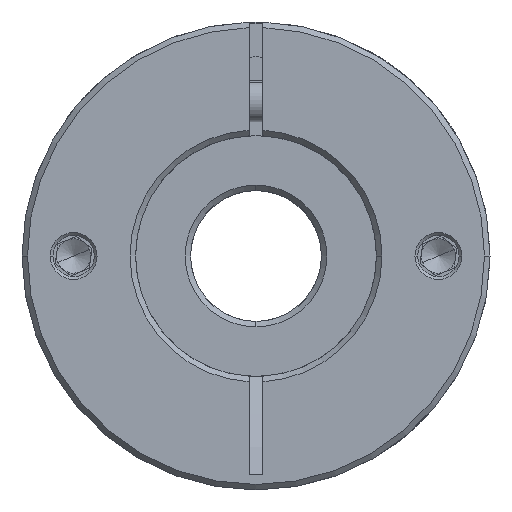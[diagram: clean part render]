
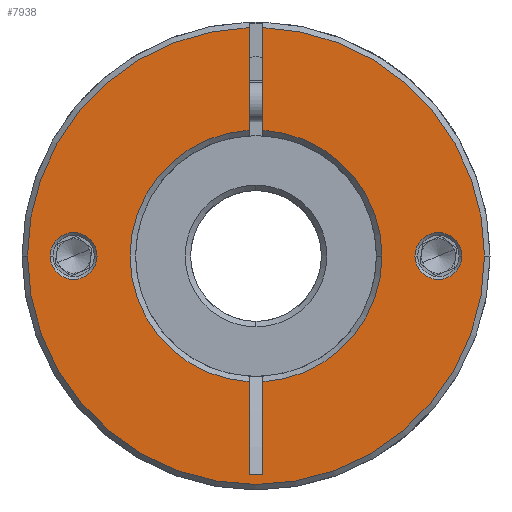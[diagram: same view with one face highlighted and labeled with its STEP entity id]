
A CAD part, front view. The second image highlights one B-rep face of the part: STEP entity #7938.
In plain terms, the highlighted planar face has unit normal (0, -1, 0).
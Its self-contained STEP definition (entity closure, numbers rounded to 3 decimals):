
#366 = VERTEX_POINT ( 'NONE', #2938 ) ;
#517 = LINE ( 'NONE', #11064, #4249 ) ;
#692 = CARTESIAN_POINT ( 'NONE',  ( 23.765, -47.045, 68. ) ) ;
#712 = DIRECTION ( 'NONE',  ( 0., 0., -1. ) ) ;
#797 = LINE ( 'NONE', #12893, #7421 ) ;
#1099 = ORIENTED_EDGE ( 'NONE', *, *, #9294, .T. ) ;
#1125 = EDGE_CURVE ( 'NONE', #4413, #4633, #4334, .T. ) ;
#1182 = LINE ( 'NONE', #12228, #6657 ) ;
#1205 = AXIS2_PLACEMENT_3D ( 'NONE', #692, #11330, #12402 ) ;
#1370 = VERTEX_POINT ( 'NONE', #9260 ) ;
#1582 = DIRECTION ( 'NONE',  ( 0., 1., 0. ) ) ;
#1835 = CARTESIAN_POINT ( 'NONE',  ( -2.735, -47.045, 68. ) ) ;
#1921 = AXIS2_PLACEMENT_3D ( 'NONE', #7976, #7090, #9084 ) ;
#1953 = EDGE_LOOP ( 'NONE', ( #10509, #12154 ) ) ;
#1979 = VERTEX_POINT ( 'NONE', #9830 ) ;
#2099 = CARTESIAN_POINT ( 'NONE',  ( -3.735, -47.045, 49.727 ) ) ;
#2165 = LINE ( 'NONE', #4608, #3121 ) ;
#2295 = CARTESIAN_POINT ( 'NONE',  ( -29.235, -47.045, 68. ) ) ;
#2640 = DIRECTION ( 'NONE',  ( 1., 0., 0. ) ) ;
#2717 = AXIS2_PLACEMENT_3D ( 'NONE', #2295, #3229, #11656 ) ;
#2723 = EDGE_CURVE ( 'NONE', #366, #4998, #12663, .T. ) ;
#2822 = CARTESIAN_POINT ( 'NONE',  ( -2.735, -47.045, 68. ) ) ;
#2938 = CARTESIAN_POINT ( 'NONE',  ( -1.735, -47.045, 86.273 ) ) ;
#2992 = FACE_BOUND ( 'NONE', #4481, .T. ) ;
#3121 = VECTOR ( 'NONE', #11946, 1000. ) ;
#3160 = ORIENTED_EDGE ( 'NONE', *, *, #13346, .F. ) ;
#3229 = DIRECTION ( 'NONE',  ( 0., 1., 0. ) ) ;
#3331 = VERTEX_POINT ( 'NONE', #12400 ) ;
#3432 = VERTEX_POINT ( 'NONE', #7389 ) ;
#3439 = DIRECTION ( 'NONE',  ( 1., 0., 0. ) ) ;
#3855 = DIRECTION ( 'NONE',  ( 0., -1., 0. ) ) ;
#3874 = CARTESIAN_POINT ( 'NONE',  ( -2.735, -47.045, 68. ) ) ;
#4108 = CIRCLE ( 'NONE', #5385, 33.2 ) ;
#4249 = VECTOR ( 'NONE', #712, 1000. ) ;
#4334 = CIRCLE ( 'NONE', #9498, 33.2 ) ;
#4357 = EDGE_CURVE ( 'NONE', #11744, #1370, #6146, .T. ) ;
#4413 = VERTEX_POINT ( 'NONE', #7923 ) ;
#4481 = EDGE_LOOP ( 'NONE', ( #6856, #7372 ) ) ;
#4608 = CARTESIAN_POINT ( 'NONE',  ( -3.735, -47.045, 68. ) ) ;
#4633 = VERTEX_POINT ( 'NONE', #12643 ) ;
#4694 = CIRCLE ( 'NONE', #9926, 18.3 ) ;
#4798 = ORIENTED_EDGE ( 'NONE', *, *, #5585, .T. ) ;
#4935 = CARTESIAN_POINT ( 'NONE',  ( -2.735, -47.045, 68. ) ) ;
#4998 = VERTEX_POINT ( 'NONE', #12626 ) ;
#5009 = VERTEX_POINT ( 'NONE', #9201 ) ;
#5059 = CARTESIAN_POINT ( 'NONE',  ( -1.735, -47.045, 101.185 ) ) ;
#5109 = ORIENTED_EDGE ( 'NONE', *, *, #2723, .T. ) ;
#5151 = CIRCLE ( 'NONE', #5821, 3.4 ) ;
#5167 = AXIS2_PLACEMENT_3D ( 'NONE', #1835, #6946, #8947 ) ;
#5181 = DIRECTION ( 'NONE',  ( 0., 1., 0. ) ) ;
#5249 = EDGE_LOOP ( 'NONE', ( #12817, #5952, #7770, #12114, #1099, #5109, #6961, #8428, #4798, #3160, #5684 ) ) ;
#5385 = AXIS2_PLACEMENT_3D ( 'NONE', #12415, #13440, #7172 ) ;
#5527 = CARTESIAN_POINT ( 'NONE',  ( -2.735, -47.045, 68. ) ) ;
#5585 = EDGE_CURVE ( 'NONE', #5009, #10159, #797, .T. ) ;
#5647 = CARTESIAN_POINT ( 'NONE',  ( -3.735, -47.045, 36.279 ) ) ;
#5655 = EDGE_CURVE ( 'NONE', #1979, #6486, #5151, .T. ) ;
#5684 = ORIENTED_EDGE ( 'NONE', *, *, #4357, .T. ) ;
#5821 = AXIS2_PLACEMENT_3D ( 'NONE', #9898, #1582, #2640 ) ;
#5952 = ORIENTED_EDGE ( 'NONE', *, *, #11413, .T. ) ;
#6007 = VERTEX_POINT ( 'NONE', #5059 ) ;
#6039 = CIRCLE ( 'NONE', #1205, 3.4 ) ;
#6121 = DIRECTION ( 'NONE',  ( 0., 1., 0. ) ) ;
#6146 = CIRCLE ( 'NONE', #6572, 18.3 ) ;
#6184 = CIRCLE ( 'NONE', #5167, 33.2 ) ;
#6276 = CARTESIAN_POINT ( 'NONE',  ( 23.765, -47.045, 68. ) ) ;
#6464 = CARTESIAN_POINT ( 'NONE',  ( -3.735, -47.045, 101.185 ) ) ;
#6486 = VERTEX_POINT ( 'NONE', #7750 ) ;
#6552 = FACE_OUTER_BOUND ( 'NONE', #5249, .T. ) ;
#6572 = AXIS2_PLACEMENT_3D ( 'NONE', #2822, #8013, #11199 ) ;
#6592 = AXIS2_PLACEMENT_3D ( 'NONE', #6276, #5181, #10368 ) ;
#6657 = VECTOR ( 'NONE', #12055, 1000. ) ;
#6856 = ORIENTED_EDGE ( 'NONE', *, *, #7199, .T. ) ;
#6891 = VERTEX_POINT ( 'NONE', #6464 ) ;
#6946 = DIRECTION ( 'NONE',  ( 0., -1., 0. ) ) ;
#6961 = ORIENTED_EDGE ( 'NONE', *, *, #13081, .T. ) ;
#7090 = DIRECTION ( 'NONE',  ( 0., -1., 0. ) ) ;
#7172 = DIRECTION ( 'NONE',  ( 1., 0., 0. ) ) ;
#7199 = EDGE_CURVE ( 'NONE', #3432, #9857, #13121, .T. ) ;
#7372 = ORIENTED_EDGE ( 'NONE', *, *, #11630, .T. ) ;
#7389 = CARTESIAN_POINT ( 'NONE',  ( 27.165, -47.045, 68. ) ) ;
#7421 = VECTOR ( 'NONE', #11774, 1000. ) ;
#7750 = CARTESIAN_POINT ( 'NONE',  ( -25.835, -47.045, 68. ) ) ;
#7770 = ORIENTED_EDGE ( 'NONE', *, *, #1125, .T. ) ;
#7923 = CARTESIAN_POINT ( 'NONE',  ( -35.935, -47.045, 68. ) ) ;
#7938 = ADVANCED_FACE ( 'NONE', ( #2992, #8699, #6552 ), #11976, .T. ) ;
#7976 = CARTESIAN_POINT ( 'NONE',  ( -2.735, -47.045, 68. ) ) ;
#8013 = DIRECTION ( 'NONE',  ( 0., 1., 0. ) ) ;
#8222 = AXIS2_PLACEMENT_3D ( 'NONE', #3874, #6121, #11393 ) ;
#8428 = ORIENTED_EDGE ( 'NONE', *, *, #12113, .T. ) ;
#8477 = VECTOR ( 'NONE', #11378, 1000. ) ;
#8597 = EDGE_CURVE ( 'NONE', #4633, #6007, #4108, .T. ) ;
#8681 = EDGE_CURVE ( 'NONE', #6486, #1979, #9179, .T. ) ;
#8699 = FACE_BOUND ( 'NONE', #1953, .T. ) ;
#8947 = DIRECTION ( 'NONE',  ( 1., 0., 0. ) ) ;
#9084 = DIRECTION ( 'NONE',  ( 1., 0., 0. ) ) ;
#9179 = CIRCLE ( 'NONE', #2717, 3.4 ) ;
#9201 = CARTESIAN_POINT ( 'NONE',  ( -1.735, -47.045, 36.279 ) ) ;
#9260 = CARTESIAN_POINT ( 'NONE',  ( -3.735, -47.045, 86.273 ) ) ;
#9294 = EDGE_CURVE ( 'NONE', #6007, #366, #1182, .T. ) ;
#9498 = AXIS2_PLACEMENT_3D ( 'NONE', #4935, #3855, #11180 ) ;
#9648 = EDGE_CURVE ( 'NONE', #6891, #1370, #2165, .T. ) ;
#9721 = DIRECTION ( 'NONE',  ( 0., 1., 0. ) ) ;
#9830 = CARTESIAN_POINT ( 'NONE',  ( -32.635, -47.045, 68. ) ) ;
#9857 = VERTEX_POINT ( 'NONE', #9997 ) ;
#9898 = CARTESIAN_POINT ( 'NONE',  ( -29.235, -47.045, 68. ) ) ;
#9926 = AXIS2_PLACEMENT_3D ( 'NONE', #5527, #9721, #3439 ) ;
#9997 = CARTESIAN_POINT ( 'NONE',  ( 20.365, -47.045, 68. ) ) ;
#10159 = VERTEX_POINT ( 'NONE', #5647 ) ;
#10368 = DIRECTION ( 'NONE',  ( 1., 0., 0. ) ) ;
#10509 = ORIENTED_EDGE ( 'NONE', *, *, #8681, .T. ) ;
#10924 = LINE ( 'NONE', #11327, #8477 ) ;
#11064 = CARTESIAN_POINT ( 'NONE',  ( -1.735, -47.045, 68. ) ) ;
#11180 = DIRECTION ( 'NONE',  ( 1., 0., 0. ) ) ;
#11199 = DIRECTION ( 'NONE',  ( 1., 0., 0. ) ) ;
#11327 = CARTESIAN_POINT ( 'NONE',  ( -3.735, -47.045, 68. ) ) ;
#11330 = DIRECTION ( 'NONE',  ( 0., 1., 0. ) ) ;
#11378 = DIRECTION ( 'NONE',  ( 0., 0., -1. ) ) ;
#11393 = DIRECTION ( 'NONE',  ( 1., 0., 0. ) ) ;
#11413 = EDGE_CURVE ( 'NONE', #6891, #4413, #6184, .T. ) ;
#11630 = EDGE_CURVE ( 'NONE', #9857, #3432, #6039, .T. ) ;
#11656 = DIRECTION ( 'NONE',  ( 1., 0., 0. ) ) ;
#11744 = VERTEX_POINT ( 'NONE', #2099 ) ;
#11774 = DIRECTION ( 'NONE',  ( -1., 0., 0. ) ) ;
#11946 = DIRECTION ( 'NONE',  ( 0., 0., -1. ) ) ;
#11976 = PLANE ( 'NONE',  #1921 ) ;
#12055 = DIRECTION ( 'NONE',  ( 0., 0., -1. ) ) ;
#12113 = EDGE_CURVE ( 'NONE', #3331, #5009, #517, .T. ) ;
#12114 = ORIENTED_EDGE ( 'NONE', *, *, #8597, .T. ) ;
#12154 = ORIENTED_EDGE ( 'NONE', *, *, #5655, .T. ) ;
#12228 = CARTESIAN_POINT ( 'NONE',  ( -1.735, -47.045, 68. ) ) ;
#12400 = CARTESIAN_POINT ( 'NONE',  ( -1.735, -47.045, 49.727 ) ) ;
#12402 = DIRECTION ( 'NONE',  ( 1., 0., 0. ) ) ;
#12415 = CARTESIAN_POINT ( 'NONE',  ( -2.735, -47.045, 68. ) ) ;
#12626 = CARTESIAN_POINT ( 'NONE',  ( 15.565, -47.045, 68. ) ) ;
#12643 = CARTESIAN_POINT ( 'NONE',  ( 30.465, -47.045, 68. ) ) ;
#12663 = CIRCLE ( 'NONE', #8222, 18.3 ) ;
#12817 = ORIENTED_EDGE ( 'NONE', *, *, #9648, .F. ) ;
#12893 = CARTESIAN_POINT ( 'NONE',  ( -3.735, -47.045, 36.279 ) ) ;
#13081 = EDGE_CURVE ( 'NONE', #4998, #3331, #4694, .T. ) ;
#13121 = CIRCLE ( 'NONE', #6592, 3.4 ) ;
#13346 = EDGE_CURVE ( 'NONE', #11744, #10159, #10924, .T. ) ;
#13440 = DIRECTION ( 'NONE',  ( 0., -1., 0. ) ) ;
